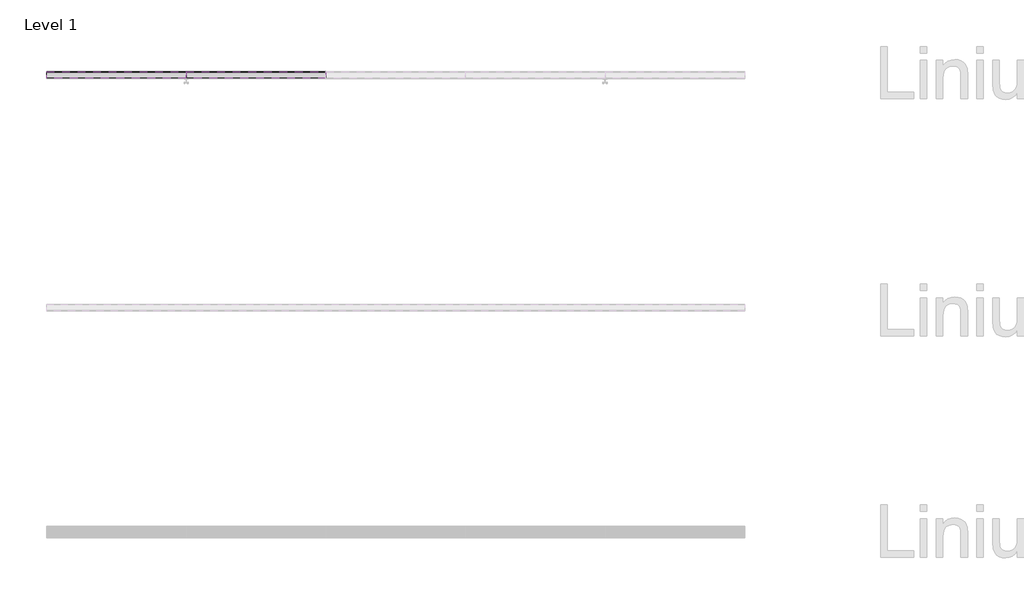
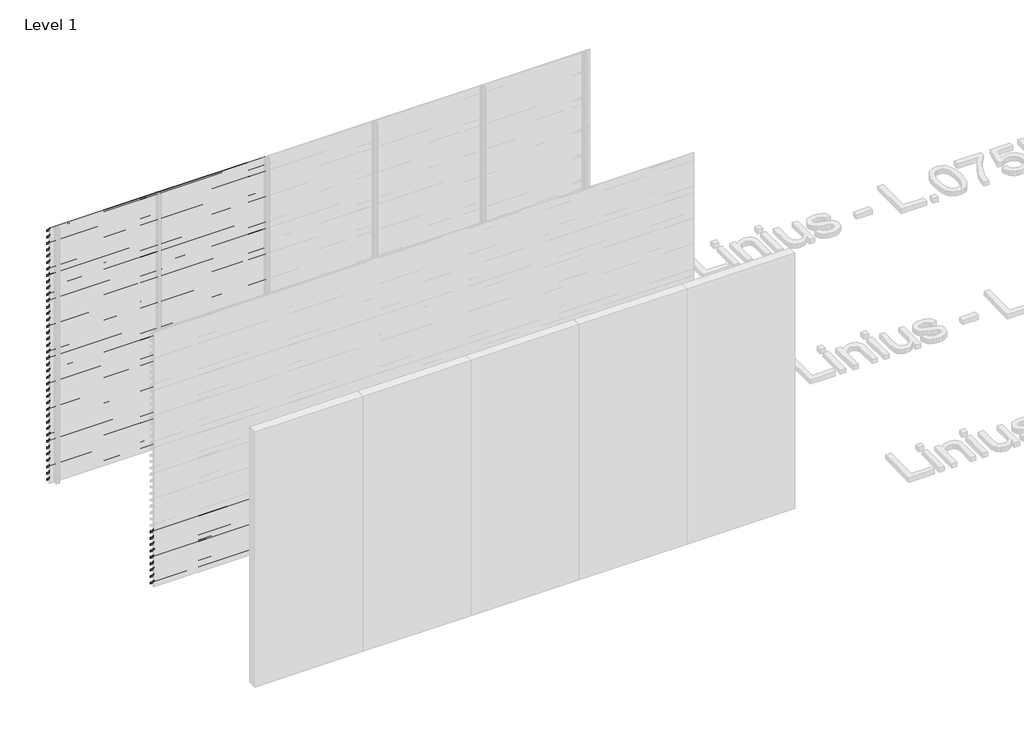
# One storey, part 16 of 55: 85 proxies.
"""IFC4 building model written with IfcOpenShell, lengths in millimetres."""

from ifc_helpers import new_model, si_unit, frame, origin, place, context, project, spatial, polyline, outline, extrude, element, save

model = new_model("IFC4")

# Units and contexts
model_context = context("Model", 3, world=origin())
ifc_project = project(units=[si_unit("LENGTHUNIT", "METRE", prefix="MILLI")], contexts=[model_context])

# Site, building, storey
site = spatial("IfcSite", under=ifc_project)
building = spatial("IfcBuilding", under=site)
storey = spatial("IfcBuildingStorey", under=building, Name="Level 1", Elevation=0.0)

# Proxies
placement = place(None, origin())
element("IfcBuildingElementProxy", 1, Name="Wall Sweeps", at=placement, inside=storey, context=model_context, shape_type="SweptSolid", body=[
    extrude(outline(polyline([(21581.0540136, 2943.5), (21581.0540136, 2923.5), (21579.8040136, 2924.2216933), (21579.8040136, 2942.7872415), (21526.0540136, 2980.3158044), (21526.0540136, 3000.0), (21527.3040136, 3000.0), (21527.3040136, 2981.0285629), (21581.0540136, 2943.5)])), frame((466.6208097, 0.0, 0.0), z_axis=(1.0, 0.0, 0.0), x_axis=(0.0, 1.0, 0.0)), (0.0, 0.0, 1.0), 1200.0000002),
])
element("IfcBuildingElementProxy", 2, Name="Wall Sweeps", at=placement, inside=storey, context=model_context, shape_type="SweptSolid", body=[
    extrude(outline(polyline([(21581.0540136, 2868.5), (21581.0540136, 2848.5), (21579.8040136, 2849.2216933), (21579.8040136, 2867.7872415), (21526.0540136, 2905.3158044), (21526.0540136, 2925.0), (21527.3040136, 2925.0), (21527.3040136, 2906.0285629), (21581.0540136, 2868.5)])), frame((466.6208097, 0.0, 0.0), z_axis=(1.0, 0.0, 0.0), x_axis=(0.0, 1.0, 0.0)), (0.0, 0.0, 1.0), 1200.0000002),
])
element("IfcBuildingElementProxy", 3, Name="Wall Sweeps", at=placement, inside=storey, context=model_context, shape_type="SweptSolid", body=[
    extrude(outline(polyline([(21581.0540136, 2793.5), (21581.0540136, 2773.5), (21579.8040136, 2774.2216933), (21579.8040136, 2792.7872415), (21526.0540136, 2830.3158044), (21526.0540136, 2850.0), (21527.3040136, 2850.0), (21527.3040136, 2831.0285629), (21581.0540136, 2793.5)])), frame((466.6208097, 0.0, 0.0), z_axis=(1.0, 0.0, 0.0), x_axis=(0.0, 1.0, 0.0)), (0.0, 0.0, 1.0), 1200.0000002),
])
element("IfcBuildingElementProxy", 4, Name="Wall Sweeps", at=placement, inside=storey, context=model_context, shape_type="SweptSolid", body=[
    extrude(outline(polyline([(21581.0540136, 2718.5), (21581.0540136, 2698.5), (21579.8040136, 2699.2216933), (21579.8040136, 2717.7872415), (21526.0540136, 2755.3158044), (21526.0540136, 2775.0), (21527.3040136, 2775.0), (21527.3040136, 2756.0285629), (21581.0540136, 2718.5)])), frame((466.6208097, 0.0, 0.0), z_axis=(1.0, 0.0, 0.0), x_axis=(0.0, 1.0, 0.0)), (0.0, 0.0, 1.0), 1200.0000002),
])
element("IfcBuildingElementProxy", 5, Name="Wall Sweeps", at=placement, inside=storey, context=model_context, shape_type="SweptSolid", body=[
    extrude(outline(polyline([(21581.0540136, 2643.5), (21581.0540136, 2623.5), (21579.8040136, 2624.2216933), (21579.8040136, 2642.7872415), (21526.0540136, 2680.3158044), (21526.0540136, 2700.0), (21527.3040136, 2700.0), (21527.3040136, 2681.0285629), (21581.0540136, 2643.5)])), frame((466.6208097, 0.0, 0.0), z_axis=(1.0, 0.0, 0.0), x_axis=(0.0, 1.0, 0.0)), (0.0, 0.0, 1.0), 1200.0000002),
])
element("IfcBuildingElementProxy", 6, Name="Wall Sweeps", at=placement, inside=storey, context=model_context, shape_type="SweptSolid", body=[
    extrude(outline(polyline([(21581.0540136, 2568.5), (21581.0540136, 2548.5), (21579.8040136, 2549.2216933), (21579.8040136, 2567.7872415), (21526.0540136, 2605.3158044), (21526.0540136, 2625.0), (21527.3040136, 2625.0), (21527.3040136, 2606.0285629), (21581.0540136, 2568.5)])), frame((466.6208097, 0.0, 0.0), z_axis=(1.0, 0.0, 0.0), x_axis=(0.0, 1.0, 0.0)), (0.0, 0.0, 1.0), 1200.0000002),
])
element("IfcBuildingElementProxy", 7, Name="Wall Sweeps", at=placement, inside=storey, context=model_context, shape_type="SweptSolid", body=[
    extrude(outline(polyline([(21581.0540136, 2493.5), (21581.0540136, 2473.5), (21579.8040136, 2474.2216933), (21579.8040136, 2492.7872415), (21526.0540136, 2530.3158044), (21526.0540136, 2550.0), (21527.3040136, 2550.0), (21527.3040136, 2531.0285629), (21581.0540136, 2493.5)])), frame((466.6208097, 0.0, 0.0), z_axis=(1.0, 0.0, 0.0), x_axis=(0.0, 1.0, 0.0)), (0.0, 0.0, 1.0), 1200.0000002),
])
element("IfcBuildingElementProxy", 8, Name="Wall Sweeps", at=placement, inside=storey, context=model_context, shape_type="SweptSolid", body=[
    extrude(outline(polyline([(21581.0540136, 2418.5), (21581.0540136, 2398.5), (21579.8040136, 2399.2216933), (21579.8040136, 2417.7872415), (21526.0540136, 2455.3158044), (21526.0540136, 2475.0), (21527.3040136, 2475.0), (21527.3040136, 2456.0285629), (21581.0540136, 2418.5)])), frame((466.6208097, 0.0, 0.0), z_axis=(1.0, 0.0, 0.0), x_axis=(0.0, 1.0, 0.0)), (0.0, 0.0, 1.0), 1200.0000002),
])
element("IfcBuildingElementProxy", 9, Name="Wall Sweeps", at=placement, inside=storey, context=model_context, shape_type="SweptSolid", body=[
    extrude(outline(polyline([(21581.0540136, 2343.5), (21581.0540136, 2323.5), (21579.8040136, 2324.2216933), (21579.8040136, 2342.7872415), (21526.0540136, 2380.3158044), (21526.0540136, 2400.0), (21527.3040136, 2400.0), (21527.3040136, 2381.0285629), (21581.0540136, 2343.5)])), frame((466.6208097, 0.0, 0.0), z_axis=(1.0, 0.0, 0.0), x_axis=(0.0, 1.0, 0.0)), (0.0, 0.0, 1.0), 1200.0000002),
])
element("IfcBuildingElementProxy", 10, Name="Wall Sweeps", at=placement, inside=storey, context=model_context, shape_type="SweptSolid", body=[
    extrude(outline(polyline([(21581.0540136, 2268.5), (21581.0540136, 2248.5), (21579.8040136, 2249.2216933), (21579.8040136, 2267.7872415), (21526.0540136, 2305.3158044), (21526.0540136, 2325.0), (21527.3040136, 2325.0), (21527.3040136, 2306.0285629), (21581.0540136, 2268.5)])), frame((466.6208097, 0.0, 0.0), z_axis=(1.0, 0.0, 0.0), x_axis=(0.0, 1.0, 0.0)), (0.0, 0.0, 1.0), 1200.0000002),
])
element("IfcBuildingElementProxy", 11, Name="Wall Sweeps", at=placement, inside=storey, context=model_context, shape_type="SweptSolid", body=[
    extrude(outline(polyline([(21581.0540136, 2193.5), (21581.0540136, 2173.5), (21579.8040136, 2174.2216933), (21579.8040136, 2192.7872415), (21526.0540136, 2230.3158044), (21526.0540136, 2250.0), (21527.3040136, 2250.0), (21527.3040136, 2231.0285629), (21581.0540136, 2193.5)])), frame((466.6208097, 0.0, 0.0), z_axis=(1.0, 0.0, 0.0), x_axis=(0.0, 1.0, 0.0)), (0.0, 0.0, 1.0), 1200.0000002),
])
element("IfcBuildingElementProxy", 12, Name="Wall Sweeps", at=placement, inside=storey, context=model_context, shape_type="SweptSolid", body=[
    extrude(outline(polyline([(21581.0540136, 2118.5), (21581.0540136, 2098.5), (21579.8040136, 2099.2216933), (21579.8040136, 2117.7872415), (21526.0540136, 2155.3158044), (21526.0540136, 2175.0), (21527.3040136, 2175.0), (21527.3040136, 2156.0285629), (21581.0540136, 2118.5)])), frame((466.6208097, 0.0, 0.0), z_axis=(1.0, 0.0, 0.0), x_axis=(0.0, 1.0, 0.0)), (0.0, 0.0, 1.0), 1200.0000002),
])
element("IfcBuildingElementProxy", 13, Name="Wall Sweeps", at=placement, inside=storey, context=model_context, shape_type="SweptSolid", body=[
    extrude(outline(polyline([(21581.0540136, 2043.5), (21581.0540136, 2023.5), (21579.8040136, 2024.2216933), (21579.8040136, 2042.7872415), (21526.0540136, 2080.3158044), (21526.0540136, 2100.0), (21527.3040136, 2100.0), (21527.3040136, 2081.0285629), (21581.0540136, 2043.5)])), frame((466.6208097, 0.0, 0.0), z_axis=(1.0, 0.0, 0.0), x_axis=(0.0, 1.0, 0.0)), (0.0, 0.0, 1.0), 1200.0000002),
])
element("IfcBuildingElementProxy", 14, Name="Wall Sweeps", at=placement, inside=storey, context=model_context, shape_type="SweptSolid", body=[
    extrude(outline(polyline([(21581.0540136, 1968.5), (21581.0540136, 1948.5), (21579.8040136, 1949.2216933), (21579.8040136, 1967.7872415), (21526.0540136, 2005.3158044), (21526.0540136, 2025.0), (21527.3040136, 2025.0), (21527.3040136, 2006.0285629), (21581.0540136, 1968.5)])), frame((466.6208097, 0.0, 0.0), z_axis=(1.0, 0.0, 0.0), x_axis=(0.0, 1.0, 0.0)), (0.0, 0.0, 1.0), 1200.0000002),
])
element("IfcBuildingElementProxy", 15, Name="Wall Sweeps", at=placement, inside=storey, context=model_context, shape_type="SweptSolid", body=[
    extrude(outline(polyline([(21581.0540136, 1893.5), (21581.0540136, 1873.5), (21579.8040136, 1874.2216933), (21579.8040136, 1892.7872415), (21526.0540136, 1930.3158044), (21526.0540136, 1950.0), (21527.3040136, 1950.0), (21527.3040136, 1931.0285629), (21581.0540136, 1893.5)])), frame((466.6208097, 0.0, 0.0), z_axis=(1.0, 0.0, 0.0), x_axis=(0.0, 1.0, 0.0)), (0.0, 0.0, 1.0), 1200.0000002),
])
element("IfcBuildingElementProxy", 16, Name="Wall Sweeps", at=placement, inside=storey, context=model_context, shape_type="SweptSolid", body=[
    extrude(outline(polyline([(21581.0540136, 1818.5), (21581.0540136, 1798.5), (21579.8040136, 1799.2216933), (21579.8040136, 1817.7872415), (21526.0540136, 1855.3158044), (21526.0540136, 1875.0), (21527.3040136, 1875.0), (21527.3040136, 1856.0285629), (21581.0540136, 1818.5)])), frame((466.6208097, 0.0, 0.0), z_axis=(1.0, 0.0, 0.0), x_axis=(0.0, 1.0, 0.0)), (0.0, 0.0, 1.0), 1200.0000002),
])
element("IfcBuildingElementProxy", 17, Name="Wall Sweeps", at=placement, inside=storey, context=model_context, shape_type="SweptSolid", body=[
    extrude(outline(polyline([(21581.0540136, 1743.5), (21581.0540136, 1723.5), (21579.8040136, 1724.2216933), (21579.8040136, 1742.7872415), (21526.0540136, 1780.3158044), (21526.0540136, 1800.0), (21527.3040136, 1800.0), (21527.3040136, 1781.0285629), (21581.0540136, 1743.5)])), frame((466.6208097, 0.0, 0.0), z_axis=(1.0, 0.0, 0.0), x_axis=(0.0, 1.0, 0.0)), (0.0, 0.0, 1.0), 1200.0000002),
])
element("IfcBuildingElementProxy", 18, Name="Wall Sweeps", at=placement, inside=storey, context=model_context, shape_type="SweptSolid", body=[
    extrude(outline(polyline([(21581.0540136, 1668.5), (21581.0540136, 1648.5), (21579.8040136, 1649.2216933), (21579.8040136, 1667.7872415), (21526.0540136, 1705.3158044), (21526.0540136, 1725.0), (21527.3040136, 1725.0), (21527.3040136, 1706.0285629), (21581.0540136, 1668.5)])), frame((466.6208097, 0.0, 0.0), z_axis=(1.0, 0.0, 0.0), x_axis=(0.0, 1.0, 0.0)), (0.0, 0.0, 1.0), 1200.0000002),
])
element("IfcBuildingElementProxy", 19, Name="Wall Sweeps", at=placement, inside=storey, context=model_context, shape_type="SweptSolid", body=[
    extrude(outline(polyline([(21581.0540136, 1593.5), (21581.0540136, 1573.5), (21579.8040136, 1574.2216933), (21579.8040136, 1592.7872415), (21526.0540136, 1630.3158044), (21526.0540136, 1650.0), (21527.3040136, 1650.0), (21527.3040136, 1631.0285629), (21581.0540136, 1593.5)])), frame((466.6208097, 0.0, 0.0), z_axis=(1.0, 0.0, 0.0), x_axis=(0.0, 1.0, 0.0)), (0.0, 0.0, 1.0), 1200.0000002),
])
element("IfcBuildingElementProxy", 20, Name="Wall Sweeps", at=placement, inside=storey, context=model_context, shape_type="SweptSolid", body=[
    extrude(outline(polyline([(21581.0540136, 1518.5), (21581.0540136, 1498.5), (21579.8040136, 1499.2216933), (21579.8040136, 1517.7872415), (21526.0540136, 1555.3158044), (21526.0540136, 1575.0), (21527.3040136, 1575.0), (21527.3040136, 1556.0285629), (21581.0540136, 1518.5)])), frame((466.6208097, 0.0, 0.0), z_axis=(1.0, 0.0, 0.0), x_axis=(0.0, 1.0, 0.0)), (0.0, 0.0, 1.0), 1200.0000002),
])
element("IfcBuildingElementProxy", 21, Name="Wall Sweeps", at=placement, inside=storey, context=model_context, shape_type="SweptSolid", body=[
    extrude(outline(polyline([(21581.0540136, 1443.5), (21581.0540136, 1423.5), (21579.8040136, 1424.2216933), (21579.8040136, 1442.7872415), (21526.0540136, 1480.3158044), (21526.0540136, 1500.0), (21527.3040136, 1500.0), (21527.3040136, 1481.0285629), (21581.0540136, 1443.5)])), frame((466.6208097, 0.0, 0.0), z_axis=(1.0, 0.0, 0.0), x_axis=(0.0, 1.0, 0.0)), (0.0, 0.0, 1.0), 1200.0000002),
])
element("IfcBuildingElementProxy", 22, Name="Wall Sweeps", at=placement, inside=storey, context=model_context, shape_type="SweptSolid", body=[
    extrude(outline(polyline([(21581.0540136, 1368.5), (21581.0540136, 1348.5), (21579.8040136, 1349.2216933), (21579.8040136, 1367.7872415), (21526.0540136, 1405.3158044), (21526.0540136, 1425.0), (21527.3040136, 1425.0), (21527.3040136, 1406.0285629), (21581.0540136, 1368.5)])), frame((466.6208097, 0.0, 0.0), z_axis=(1.0, 0.0, 0.0), x_axis=(0.0, 1.0, 0.0)), (0.0, 0.0, 1.0), 1200.0000002),
])
element("IfcBuildingElementProxy", 23, Name="Wall Sweeps", at=placement, inside=storey, context=model_context, shape_type="SweptSolid", body=[
    extrude(outline(polyline([(21581.0540136, 1293.5), (21581.0540136, 1273.5), (21579.8040136, 1274.2216933), (21579.8040136, 1292.7872415), (21526.0540136, 1330.3158044), (21526.0540136, 1350.0), (21527.3040136, 1350.0), (21527.3040136, 1331.0285629), (21581.0540136, 1293.5)])), frame((466.6208097, 0.0, 0.0), z_axis=(1.0, 0.0, 0.0), x_axis=(0.0, 1.0, 0.0)), (0.0, 0.0, 1.0), 1200.0000002),
])
element("IfcBuildingElementProxy", 24, Name="Wall Sweeps", at=placement, inside=storey, context=model_context, shape_type="SweptSolid", body=[
    extrude(outline(polyline([(21581.0540136, 1218.5), (21581.0540136, 1198.5), (21579.8040136, 1199.2216933), (21579.8040136, 1217.7872415), (21526.0540136, 1255.3158044), (21526.0540136, 1275.0), (21527.3040136, 1275.0), (21527.3040136, 1256.0285629), (21581.0540136, 1218.5)])), frame((466.6208097, 0.0, 0.0), z_axis=(1.0, 0.0, 0.0), x_axis=(0.0, 1.0, 0.0)), (0.0, 0.0, 1.0), 1200.0000002),
])
element("IfcBuildingElementProxy", 25, Name="Wall Sweeps", at=placement, inside=storey, context=model_context, shape_type="SweptSolid", body=[
    extrude(outline(polyline([(21581.0540136, 1143.5), (21581.0540136, 1123.5), (21579.8040136, 1124.2216933), (21579.8040136, 1142.7872415), (21526.0540136, 1180.3158044), (21526.0540136, 1200.0), (21527.3040136, 1200.0), (21527.3040136, 1181.0285629), (21581.0540136, 1143.5)])), frame((466.6208097, 0.0, 0.0), z_axis=(1.0, 0.0, 0.0), x_axis=(0.0, 1.0, 0.0)), (0.0, 0.0, 1.0), 1200.0000002),
])
element("IfcBuildingElementProxy", 26, Name="Wall Sweeps", at=placement, inside=storey, context=model_context, shape_type="SweptSolid", body=[
    extrude(outline(polyline([(21581.0540136, 1068.5), (21581.0540136, 1048.5), (21579.8040136, 1049.2216933), (21579.8040136, 1067.7872415), (21526.0540136, 1105.3158044), (21526.0540136, 1125.0), (21527.3040136, 1125.0), (21527.3040136, 1106.0285629), (21581.0540136, 1068.5)])), frame((466.6208097, 0.0, 0.0), z_axis=(1.0, 0.0, 0.0), x_axis=(0.0, 1.0, 0.0)), (0.0, 0.0, 1.0), 1200.0000002),
])
element("IfcBuildingElementProxy", 27, Name="Wall Sweeps", at=placement, inside=storey, context=model_context, shape_type="SweptSolid", body=[
    extrude(outline(polyline([(21581.0540136, 993.5), (21581.0540136, 973.5), (21579.8040136, 974.2216933), (21579.8040136, 992.7872415), (21526.0540136, 1030.3158044), (21526.0540136, 1050.0), (21527.3040136, 1050.0), (21527.3040136, 1031.0285629), (21581.0540136, 993.5)])), frame((466.6208097, 0.0, 0.0), z_axis=(1.0, 0.0, 0.0), x_axis=(0.0, 1.0, 0.0)), (0.0, 0.0, 1.0), 1200.0000002),
])
element("IfcBuildingElementProxy", 28, Name="Wall Sweeps", at=placement, inside=storey, context=model_context, shape_type="SweptSolid", body=[
    extrude(outline(polyline([(21581.0540136, 918.5), (21581.0540136, 898.5), (21579.8040136, 899.2216933), (21579.8040136, 917.7872415), (21526.0540136, 955.3158044), (21526.0540136, 975.0), (21527.3040136, 975.0), (21527.3040136, 956.0285629), (21581.0540136, 918.5)])), frame((466.6208097, 0.0, 0.0), z_axis=(1.0, 0.0, 0.0), x_axis=(0.0, 1.0, 0.0)), (0.0, 0.0, 1.0), 1200.0000002),
])
element("IfcBuildingElementProxy", 29, Name="Wall Sweeps", at=placement, inside=storey, context=model_context, shape_type="SweptSolid", body=[
    extrude(outline(polyline([(21581.0540136, 843.5), (21581.0540136, 823.5), (21579.8040136, 824.2216933), (21579.8040136, 842.7872415), (21526.0540136, 880.3158044), (21526.0540136, 900.0), (21527.3040136, 900.0), (21527.3040136, 881.0285629), (21581.0540136, 843.5)])), frame((466.6208097, 0.0, 0.0), z_axis=(1.0, 0.0, 0.0), x_axis=(0.0, 1.0, 0.0)), (0.0, 0.0, 1.0), 1200.0000002),
])
element("IfcBuildingElementProxy", 30, Name="Wall Sweeps", at=placement, inside=storey, context=model_context, shape_type="SweptSolid", body=[
    extrude(outline(polyline([(21581.0540136, 768.5), (21581.0540136, 748.5), (21579.8040136, 749.2216933), (21579.8040136, 767.7872415), (21526.0540136, 805.3158044), (21526.0540136, 825.0), (21527.3040136, 825.0), (21527.3040136, 806.0285629), (21581.0540136, 768.5)])), frame((466.6208097, 0.0, 0.0), z_axis=(1.0, 0.0, 0.0), x_axis=(0.0, 1.0, 0.0)), (0.0, 0.0, 1.0), 1200.0000002),
])
element("IfcBuildingElementProxy", 31, Name="Wall Sweeps", at=placement, inside=storey, context=model_context, shape_type="SweptSolid", body=[
    extrude(outline(polyline([(21581.0540136, 693.5), (21581.0540136, 673.5), (21579.8040136, 674.2216933), (21579.8040136, 692.7872415), (21526.0540136, 730.3158044), (21526.0540136, 750.0), (21527.3040136, 750.0), (21527.3040136, 731.0285629), (21581.0540136, 693.5)])), frame((466.6208097, 0.0, 0.0), z_axis=(1.0, 0.0, 0.0), x_axis=(0.0, 1.0, 0.0)), (0.0, 0.0, 1.0), 1200.0000002),
])
element("IfcBuildingElementProxy", 32, Name="Wall Sweeps", at=placement, inside=storey, context=model_context, shape_type="SweptSolid", body=[
    extrude(outline(polyline([(21581.0540136, 618.5), (21581.0540136, 598.5), (21579.8040136, 599.2216933), (21579.8040136, 617.7872415), (21526.0540136, 655.3158044), (21526.0540136, 675.0), (21527.3040136, 675.0), (21527.3040136, 656.0285629), (21581.0540136, 618.5)])), frame((466.6208097, 0.0, 0.0), z_axis=(1.0, 0.0, 0.0), x_axis=(0.0, 1.0, 0.0)), (0.0, 0.0, 1.0), 1200.0000002),
])
element("IfcBuildingElementProxy", 33, Name="Wall Sweeps", at=placement, inside=storey, context=model_context, shape_type="SweptSolid", body=[
    extrude(outline(polyline([(21581.0540136, 543.5), (21581.0540136, 523.5), (21579.8040136, 524.2216933), (21579.8040136, 542.7872415), (21526.0540136, 580.3158044), (21526.0540136, 600.0), (21527.3040136, 600.0), (21527.3040136, 581.0285629), (21581.0540136, 543.5)])), frame((466.6208097, 0.0, 0.0), z_axis=(1.0, 0.0, 0.0), x_axis=(0.0, 1.0, 0.0)), (0.0, 0.0, 1.0), 1200.0000002),
])
element("IfcBuildingElementProxy", 34, Name="Wall Sweeps", at=placement, inside=storey, context=model_context, shape_type="SweptSolid", body=[
    extrude(outline(polyline([(21581.0540136, 468.5), (21581.0540136, 448.5), (21579.8040136, 449.2216933), (21579.8040136, 467.7872415), (21526.0540136, 505.3158044), (21526.0540136, 525.0), (21527.3040136, 525.0), (21527.3040136, 506.0285629), (21581.0540136, 468.5)])), frame((466.6208097, 0.0, 0.0), z_axis=(1.0, 0.0, 0.0), x_axis=(0.0, 1.0, 0.0)), (0.0, 0.0, 1.0), 1200.0000002),
])
element("IfcBuildingElementProxy", 35, Name="Wall Sweeps", at=placement, inside=storey, context=model_context, shape_type="SweptSolid", body=[
    extrude(outline(polyline([(21581.0540136, 393.5), (21581.0540136, 373.5), (21579.8040136, 374.2216933), (21579.8040136, 392.7872415), (21526.0540136, 430.3158044), (21526.0540136, 450.0), (21527.3040136, 450.0), (21527.3040136, 431.0285629), (21581.0540136, 393.5)])), frame((466.6208097, 0.0, 0.0), z_axis=(1.0, 0.0, 0.0), x_axis=(0.0, 1.0, 0.0)), (0.0, 0.0, 1.0), 1200.0000002),
])
element("IfcBuildingElementProxy", 36, Name="Wall Sweeps", at=placement, inside=storey, context=model_context, shape_type="SweptSolid", body=[
    extrude(outline(polyline([(21581.0540136, 318.5), (21581.0540136, 298.5), (21579.8040136, 299.2216933), (21579.8040136, 317.7872415), (21526.0540136, 355.3158044), (21526.0540136, 375.0), (21527.3040136, 375.0), (21527.3040136, 356.0285629), (21581.0540136, 318.5)])), frame((466.6208097, 0.0, 0.0), z_axis=(1.0, 0.0, 0.0), x_axis=(0.0, 1.0, 0.0)), (0.0, 0.0, 1.0), 1200.0000002),
])
element("IfcBuildingElementProxy", 37, Name="Wall Sweeps", at=placement, inside=storey, context=model_context, shape_type="SweptSolid", body=[
    extrude(outline(polyline([(21581.0540136, 243.5), (21581.0540136, 223.5), (21579.8040136, 224.2216933), (21579.8040136, 242.7872415), (21526.0540136, 280.3158044), (21526.0540136, 300.0), (21527.3040136, 300.0), (21527.3040136, 281.0285629), (21581.0540136, 243.5)])), frame((466.6208097, 0.0, 0.0), z_axis=(1.0, 0.0, 0.0), x_axis=(0.0, 1.0, 0.0)), (0.0, 0.0, 1.0), 1200.0000002),
])
element("IfcBuildingElementProxy", 38, Name="Wall Sweeps", at=placement, inside=storey, context=model_context, shape_type="SweptSolid", body=[
    extrude(outline(polyline([(21581.0540136, 168.5), (21581.0540136, 148.5), (21579.8040136, 149.2216933), (21579.8040136, 167.7872415), (21526.0540136, 205.3158044), (21526.0540136, 225.0), (21527.3040136, 225.0), (21527.3040136, 206.0285629), (21581.0540136, 168.5)])), frame((466.6208097, 0.0, 0.0), z_axis=(1.0, 0.0, 0.0), x_axis=(0.0, 1.0, 0.0)), (0.0, 0.0, 1.0), 1200.0000002),
])
element("IfcBuildingElementProxy", 39, Name="Wall Sweeps", at=placement, inside=storey, context=model_context, shape_type="SweptSolid", body=[
    extrude(outline(polyline([(21581.0540136, 93.5), (21581.0540136, 73.5), (21579.8040136, 74.2216933), (21579.8040136, 92.7872415), (21526.0540136, 130.3158044), (21526.0540136, 150.0), (21527.3040136, 150.0), (21527.3040136, 131.0285629), (21581.0540136, 93.5)])), frame((466.6208097, 0.0, 0.0), z_axis=(1.0, 0.0, 0.0), x_axis=(0.0, 1.0, 0.0)), (0.0, 0.0, 1.0), 1200.0000002),
])
element("IfcBuildingElementProxy", 40, Name="Wall Sweeps", at=placement, inside=storey, context=model_context, shape_type="SweptSolid", body=[
    extrude(outline(polyline([(21581.0540136, 18.5), (21581.0540136, -1.5), (21579.8040136, -0.7783067), (21579.8040136, 17.7872415), (21526.0540136, 55.3158044), (21526.0540136, 75.0), (21527.3040136, 75.0), (21527.3040136, 56.0285629), (21581.0540136, 18.5)])), frame((466.6208097, 0.0, 0.0), z_axis=(1.0, 0.0, 0.0), x_axis=(0.0, 1.0, 0.0)), (0.0, 0.0, 1.0), 1200.0000002),
])
element("IfcBuildingElementProxy", 41, Name="Wall Sweeps", at=placement, inside=storey, context=model_context, shape_type="SweptSolid", body=[
    extrude(outline(polyline([(21581.0540136, 2943.5), (21581.0540136, 2923.5), (21579.8040136, 2924.2216933), (21579.8040136, 2942.7872415), (21526.0540136, 2980.3158044), (21526.0540136, 3000.0), (21527.3040136, 3000.0), (21527.3040136, 2981.0285629), (21581.0540136, 2943.5)])), frame((1666.6208099, 0.0, 0.0), z_axis=(1.0, 0.0, 0.0), x_axis=(0.0, 1.0, 0.0)), (0.0, 0.0, 1.0), 1199.9999999),
])
element("IfcBuildingElementProxy", 42, Name="Wall Sweeps", at=placement, inside=storey, context=model_context, shape_type="SweptSolid", body=[
    extrude(outline(polyline([(21581.0540136, 2868.5), (21581.0540136, 2848.5), (21579.8040136, 2849.2216933), (21579.8040136, 2867.7872415), (21526.0540136, 2905.3158044), (21526.0540136, 2925.0), (21527.3040136, 2925.0), (21527.3040136, 2906.0285629), (21581.0540136, 2868.5)])), frame((1666.6208099, 0.0, 0.0), z_axis=(1.0, 0.0, 0.0), x_axis=(0.0, 1.0, 0.0)), (0.0, 0.0, 1.0), 1199.9999999),
])
element("IfcBuildingElementProxy", 43, Name="Wall Sweeps", at=placement, inside=storey, context=model_context, shape_type="SweptSolid", body=[
    extrude(outline(polyline([(21581.0540136, 2793.5), (21581.0540136, 2773.5), (21579.8040136, 2774.2216933), (21579.8040136, 2792.7872415), (21526.0540136, 2830.3158044), (21526.0540136, 2850.0), (21527.3040136, 2850.0), (21527.3040136, 2831.0285629), (21581.0540136, 2793.5)])), frame((1666.6208099, 0.0, 0.0), z_axis=(1.0, 0.0, 0.0), x_axis=(0.0, 1.0, 0.0)), (0.0, 0.0, 1.0), 1199.9999999),
])
element("IfcBuildingElementProxy", 44, Name="Wall Sweeps", at=placement, inside=storey, context=model_context, shape_type="SweptSolid", body=[
    extrude(outline(polyline([(21581.0540136, 2718.5), (21581.0540136, 2698.5), (21579.8040136, 2699.2216933), (21579.8040136, 2717.7872415), (21526.0540136, 2755.3158044), (21526.0540136, 2775.0), (21527.3040136, 2775.0), (21527.3040136, 2756.0285629), (21581.0540136, 2718.5)])), frame((1666.6208099, 0.0, 0.0), z_axis=(1.0, 0.0, 0.0), x_axis=(0.0, 1.0, 0.0)), (0.0, 0.0, 1.0), 1199.9999999),
])
element("IfcBuildingElementProxy", 45, Name="Wall Sweeps", at=placement, inside=storey, context=model_context, shape_type="SweptSolid", body=[
    extrude(outline(polyline([(21581.0540136, 2643.5), (21581.0540136, 2623.5), (21579.8040136, 2624.2216933), (21579.8040136, 2642.7872415), (21526.0540136, 2680.3158044), (21526.0540136, 2700.0), (21527.3040136, 2700.0), (21527.3040136, 2681.0285629), (21581.0540136, 2643.5)])), frame((1666.6208099, 0.0, 0.0), z_axis=(1.0, 0.0, 0.0), x_axis=(0.0, 1.0, 0.0)), (0.0, 0.0, 1.0), 1199.9999999),
])
element("IfcBuildingElementProxy", 46, Name="Wall Sweeps", at=placement, inside=storey, context=model_context, shape_type="SweptSolid", body=[
    extrude(outline(polyline([(21581.0540136, 2568.5), (21581.0540136, 2548.5), (21579.8040136, 2549.2216933), (21579.8040136, 2567.7872415), (21526.0540136, 2605.3158044), (21526.0540136, 2625.0), (21527.3040136, 2625.0), (21527.3040136, 2606.0285629), (21581.0540136, 2568.5)])), frame((1666.6208099, 0.0, 0.0), z_axis=(1.0, 0.0, 0.0), x_axis=(0.0, 1.0, 0.0)), (0.0, 0.0, 1.0), 1199.9999999),
])
element("IfcBuildingElementProxy", 47, Name="Wall Sweeps", at=placement, inside=storey, context=model_context, shape_type="SweptSolid", body=[
    extrude(outline(polyline([(21581.0540136, 2493.5), (21581.0540136, 2473.5), (21579.8040136, 2474.2216933), (21579.8040136, 2492.7872415), (21526.0540136, 2530.3158044), (21526.0540136, 2550.0), (21527.3040136, 2550.0), (21527.3040136, 2531.0285629), (21581.0540136, 2493.5)])), frame((1666.6208099, 0.0, 0.0), z_axis=(1.0, 0.0, 0.0), x_axis=(0.0, 1.0, 0.0)), (0.0, 0.0, 1.0), 1199.9999999),
])
element("IfcBuildingElementProxy", 48, Name="Wall Sweeps", at=placement, inside=storey, context=model_context, shape_type="SweptSolid", body=[
    extrude(outline(polyline([(21581.0540136, 2418.5), (21581.0540136, 2398.5), (21579.8040136, 2399.2216933), (21579.8040136, 2417.7872415), (21526.0540136, 2455.3158044), (21526.0540136, 2475.0), (21527.3040136, 2475.0), (21527.3040136, 2456.0285629), (21581.0540136, 2418.5)])), frame((1666.6208099, 0.0, 0.0), z_axis=(1.0, 0.0, 0.0), x_axis=(0.0, 1.0, 0.0)), (0.0, 0.0, 1.0), 1199.9999999),
])
element("IfcBuildingElementProxy", 49, Name="Wall Sweeps", at=placement, inside=storey, context=model_context, shape_type="SweptSolid", body=[
    extrude(outline(polyline([(21581.0540136, 2343.5), (21581.0540136, 2323.5), (21579.8040136, 2324.2216933), (21579.8040136, 2342.7872415), (21526.0540136, 2380.3158044), (21526.0540136, 2400.0), (21527.3040136, 2400.0), (21527.3040136, 2381.0285629), (21581.0540136, 2343.5)])), frame((1666.6208099, 0.0, 0.0), z_axis=(1.0, 0.0, 0.0), x_axis=(0.0, 1.0, 0.0)), (0.0, 0.0, 1.0), 1199.9999999),
])
element("IfcBuildingElementProxy", 50, Name="Wall Sweeps", at=placement, inside=storey, context=model_context, shape_type="SweptSolid", body=[
    extrude(outline(polyline([(21581.0540136, 2268.5), (21581.0540136, 2248.5), (21579.8040136, 2249.2216933), (21579.8040136, 2267.7872415), (21526.0540136, 2305.3158044), (21526.0540136, 2325.0), (21527.3040136, 2325.0), (21527.3040136, 2306.0285629), (21581.0540136, 2268.5)])), frame((1666.6208099, 0.0, 0.0), z_axis=(1.0, 0.0, 0.0), x_axis=(0.0, 1.0, 0.0)), (0.0, 0.0, 1.0), 1199.9999999),
])
element("IfcBuildingElementProxy", 51, Name="Wall Sweeps", at=placement, inside=storey, context=model_context, shape_type="SweptSolid", body=[
    extrude(outline(polyline([(21581.0540136, 2193.5), (21581.0540136, 2173.5), (21579.8040136, 2174.2216933), (21579.8040136, 2192.7872415), (21526.0540136, 2230.3158044), (21526.0540136, 2250.0), (21527.3040136, 2250.0), (21527.3040136, 2231.0285629), (21581.0540136, 2193.5)])), frame((1666.6208099, 0.0, 0.0), z_axis=(1.0, 0.0, 0.0), x_axis=(0.0, 1.0, 0.0)), (0.0, 0.0, 1.0), 1199.9999999),
])
element("IfcBuildingElementProxy", 52, Name="Wall Sweeps", at=placement, inside=storey, context=model_context, shape_type="SweptSolid", body=[
    extrude(outline(polyline([(21581.0540136, 2118.5), (21581.0540136, 2098.5), (21579.8040136, 2099.2216933), (21579.8040136, 2117.7872415), (21526.0540136, 2155.3158044), (21526.0540136, 2175.0), (21527.3040136, 2175.0), (21527.3040136, 2156.0285629), (21581.0540136, 2118.5)])), frame((1666.6208099, 0.0, 0.0), z_axis=(1.0, 0.0, 0.0), x_axis=(0.0, 1.0, 0.0)), (0.0, 0.0, 1.0), 1199.9999999),
])
element("IfcBuildingElementProxy", 53, Name="Wall Sweeps", at=placement, inside=storey, context=model_context, shape_type="SweptSolid", body=[
    extrude(outline(polyline([(21581.0540136, 2043.5), (21581.0540136, 2023.5), (21579.8040136, 2024.2216933), (21579.8040136, 2042.7872415), (21526.0540136, 2080.3158044), (21526.0540136, 2100.0), (21527.3040136, 2100.0), (21527.3040136, 2081.0285629), (21581.0540136, 2043.5)])), frame((1666.6208099, 0.0, 0.0), z_axis=(1.0, 0.0, 0.0), x_axis=(0.0, 1.0, 0.0)), (0.0, 0.0, 1.0), 1199.9999999),
])
element("IfcBuildingElementProxy", 54, Name="Wall Sweeps", at=placement, inside=storey, context=model_context, shape_type="SweptSolid", body=[
    extrude(outline(polyline([(21581.0540136, 1968.5), (21581.0540136, 1948.5), (21579.8040136, 1949.2216933), (21579.8040136, 1967.7872415), (21526.0540136, 2005.3158044), (21526.0540136, 2025.0), (21527.3040136, 2025.0), (21527.3040136, 2006.0285629), (21581.0540136, 1968.5)])), frame((1666.6208099, 0.0, 0.0), z_axis=(1.0, 0.0, 0.0), x_axis=(0.0, 1.0, 0.0)), (0.0, 0.0, 1.0), 1199.9999999),
])
element("IfcBuildingElementProxy", 55, Name="Wall Sweeps", at=placement, inside=storey, context=model_context, shape_type="SweptSolid", body=[
    extrude(outline(polyline([(21581.0540136, 1893.5), (21581.0540136, 1873.5), (21579.8040136, 1874.2216933), (21579.8040136, 1892.7872415), (21526.0540136, 1930.3158044), (21526.0540136, 1950.0), (21527.3040136, 1950.0), (21527.3040136, 1931.0285629), (21581.0540136, 1893.5)])), frame((1666.6208099, 0.0, 0.0), z_axis=(1.0, 0.0, 0.0), x_axis=(0.0, 1.0, 0.0)), (0.0, 0.0, 1.0), 1199.9999999),
])
element("IfcBuildingElementProxy", 56, Name="Wall Sweeps", at=placement, inside=storey, context=model_context, shape_type="SweptSolid", body=[
    extrude(outline(polyline([(21581.0540136, 1818.5), (21581.0540136, 1798.5), (21579.8040136, 1799.2216933), (21579.8040136, 1817.7872415), (21526.0540136, 1855.3158044), (21526.0540136, 1875.0), (21527.3040136, 1875.0), (21527.3040136, 1856.0285629), (21581.0540136, 1818.5)])), frame((1666.6208099, 0.0, 0.0), z_axis=(1.0, 0.0, 0.0), x_axis=(0.0, 1.0, 0.0)), (0.0, 0.0, 1.0), 1199.9999999),
])
element("IfcBuildingElementProxy", 57, Name="Wall Sweeps", at=placement, inside=storey, context=model_context, shape_type="SweptSolid", body=[
    extrude(outline(polyline([(21581.0540136, 1743.5), (21581.0540136, 1723.5), (21579.8040136, 1724.2216933), (21579.8040136, 1742.7872415), (21526.0540136, 1780.3158044), (21526.0540136, 1800.0), (21527.3040136, 1800.0), (21527.3040136, 1781.0285629), (21581.0540136, 1743.5)])), frame((1666.6208099, 0.0, 0.0), z_axis=(1.0, 0.0, 0.0), x_axis=(0.0, 1.0, 0.0)), (0.0, 0.0, 1.0), 1199.9999999),
])
element("IfcBuildingElementProxy", 58, Name="Wall Sweeps", at=placement, inside=storey, context=model_context, shape_type="SweptSolid", body=[
    extrude(outline(polyline([(21581.0540136, 1668.5), (21581.0540136, 1648.5), (21579.8040136, 1649.2216933), (21579.8040136, 1667.7872415), (21526.0540136, 1705.3158044), (21526.0540136, 1725.0), (21527.3040136, 1725.0), (21527.3040136, 1706.0285629), (21581.0540136, 1668.5)])), frame((1666.6208099, 0.0, 0.0), z_axis=(1.0, 0.0, 0.0), x_axis=(0.0, 1.0, 0.0)), (0.0, 0.0, 1.0), 1199.9999999),
])
element("IfcBuildingElementProxy", 59, Name="Wall Sweeps", at=placement, inside=storey, context=model_context, shape_type="SweptSolid", body=[
    extrude(outline(polyline([(21581.0540136, 1593.5), (21581.0540136, 1573.5), (21579.8040136, 1574.2216933), (21579.8040136, 1592.7872415), (21526.0540136, 1630.3158044), (21526.0540136, 1650.0), (21527.3040136, 1650.0), (21527.3040136, 1631.0285629), (21581.0540136, 1593.5)])), frame((1666.6208099, 0.0, 0.0), z_axis=(1.0, 0.0, 0.0), x_axis=(0.0, 1.0, 0.0)), (0.0, 0.0, 1.0), 1199.9999999),
])
element("IfcBuildingElementProxy", 60, Name="Wall Sweeps", at=placement, inside=storey, context=model_context, shape_type="SweptSolid", body=[
    extrude(outline(polyline([(21581.0540136, 1518.5), (21581.0540136, 1498.5), (21579.8040136, 1499.2216933), (21579.8040136, 1517.7872415), (21526.0540136, 1555.3158044), (21526.0540136, 1575.0), (21527.3040136, 1575.0), (21527.3040136, 1556.0285629), (21581.0540136, 1518.5)])), frame((1666.6208099, 0.0, 0.0), z_axis=(1.0, 0.0, 0.0), x_axis=(0.0, 1.0, 0.0)), (0.0, 0.0, 1.0), 1199.9999999),
])
element("IfcBuildingElementProxy", 61, Name="Wall Sweeps", at=placement, inside=storey, context=model_context, shape_type="SweptSolid", body=[
    extrude(outline(polyline([(21581.0540136, 1443.5), (21581.0540136, 1423.5), (21579.8040136, 1424.2216933), (21579.8040136, 1442.7872415), (21526.0540136, 1480.3158044), (21526.0540136, 1500.0), (21527.3040136, 1500.0), (21527.3040136, 1481.0285629), (21581.0540136, 1443.5)])), frame((1666.6208099, 0.0, 0.0), z_axis=(1.0, 0.0, 0.0), x_axis=(0.0, 1.0, 0.0)), (0.0, 0.0, 1.0), 1199.9999999),
])
element("IfcBuildingElementProxy", 62, Name="Wall Sweeps", at=placement, inside=storey, context=model_context, shape_type="SweptSolid", body=[
    extrude(outline(polyline([(21581.0540136, 1368.5), (21581.0540136, 1348.5), (21579.8040136, 1349.2216933), (21579.8040136, 1367.7872415), (21526.0540136, 1405.3158044), (21526.0540136, 1425.0), (21527.3040136, 1425.0), (21527.3040136, 1406.0285629), (21581.0540136, 1368.5)])), frame((1666.6208099, 0.0, 0.0), z_axis=(1.0, 0.0, 0.0), x_axis=(0.0, 1.0, 0.0)), (0.0, 0.0, 1.0), 1199.9999999),
])
element("IfcBuildingElementProxy", 63, Name="Wall Sweeps", at=placement, inside=storey, context=model_context, shape_type="SweptSolid", body=[
    extrude(outline(polyline([(21581.0540136, 1293.5), (21581.0540136, 1273.5), (21579.8040136, 1274.2216933), (21579.8040136, 1292.7872415), (21526.0540136, 1330.3158044), (21526.0540136, 1350.0), (21527.3040136, 1350.0), (21527.3040136, 1331.0285629), (21581.0540136, 1293.5)])), frame((1666.6208099, 0.0, 0.0), z_axis=(1.0, 0.0, 0.0), x_axis=(0.0, 1.0, 0.0)), (0.0, 0.0, 1.0), 1199.9999999),
])
element("IfcBuildingElementProxy", 64, Name="Wall Sweeps", at=placement, inside=storey, context=model_context, shape_type="SweptSolid", body=[
    extrude(outline(polyline([(21581.0540136, 1218.5), (21581.0540136, 1198.5), (21579.8040136, 1199.2216933), (21579.8040136, 1217.7872415), (21526.0540136, 1255.3158044), (21526.0540136, 1275.0), (21527.3040136, 1275.0), (21527.3040136, 1256.0285629), (21581.0540136, 1218.5)])), frame((1666.6208099, 0.0, 0.0), z_axis=(1.0, 0.0, 0.0), x_axis=(0.0, 1.0, 0.0)), (0.0, 0.0, 1.0), 1199.9999999),
])
element("IfcBuildingElementProxy", 65, Name="Wall Sweeps", at=placement, inside=storey, context=model_context, shape_type="SweptSolid", body=[
    extrude(outline(polyline([(21581.0540136, 1143.5), (21581.0540136, 1123.5), (21579.8040136, 1124.2216933), (21579.8040136, 1142.7872415), (21526.0540136, 1180.3158044), (21526.0540136, 1200.0), (21527.3040136, 1200.0), (21527.3040136, 1181.0285629), (21581.0540136, 1143.5)])), frame((1666.6208099, 0.0, 0.0), z_axis=(1.0, 0.0, 0.0), x_axis=(0.0, 1.0, 0.0)), (0.0, 0.0, 1.0), 1199.9999999),
])
element("IfcBuildingElementProxy", 66, Name="Wall Sweeps", at=placement, inside=storey, context=model_context, shape_type="SweptSolid", body=[
    extrude(outline(polyline([(21581.0540136, 1068.5), (21581.0540136, 1048.5), (21579.8040136, 1049.2216933), (21579.8040136, 1067.7872415), (21526.0540136, 1105.3158044), (21526.0540136, 1125.0), (21527.3040136, 1125.0), (21527.3040136, 1106.0285629), (21581.0540136, 1068.5)])), frame((1666.6208099, 0.0, 0.0), z_axis=(1.0, 0.0, 0.0), x_axis=(0.0, 1.0, 0.0)), (0.0, 0.0, 1.0), 1199.9999999),
])
element("IfcBuildingElementProxy", 67, Name="Wall Sweeps", at=placement, inside=storey, context=model_context, shape_type="SweptSolid", body=[
    extrude(outline(polyline([(21581.0540136, 993.5), (21581.0540136, 973.5), (21579.8040136, 974.2216933), (21579.8040136, 992.7872415), (21526.0540136, 1030.3158044), (21526.0540136, 1050.0), (21527.3040136, 1050.0), (21527.3040136, 1031.0285629), (21581.0540136, 993.5)])), frame((1666.6208099, 0.0, 0.0), z_axis=(1.0, 0.0, 0.0), x_axis=(0.0, 1.0, 0.0)), (0.0, 0.0, 1.0), 1199.9999999),
])
element("IfcBuildingElementProxy", 68, Name="Wall Sweeps", at=placement, inside=storey, context=model_context, shape_type="SweptSolid", body=[
    extrude(outline(polyline([(21581.0540136, 918.5), (21581.0540136, 898.5), (21579.8040136, 899.2216933), (21579.8040136, 917.7872415), (21526.0540136, 955.3158044), (21526.0540136, 975.0), (21527.3040136, 975.0), (21527.3040136, 956.0285629), (21581.0540136, 918.5)])), frame((1666.6208099, 0.0, 0.0), z_axis=(1.0, 0.0, 0.0), x_axis=(0.0, 1.0, 0.0)), (0.0, 0.0, 1.0), 1199.9999999),
])
element("IfcBuildingElementProxy", 69, Name="Wall Sweeps", at=placement, inside=storey, context=model_context, shape_type="SweptSolid", body=[
    extrude(outline(polyline([(21581.0540136, 843.5), (21581.0540136, 823.5), (21579.8040136, 824.2216933), (21579.8040136, 842.7872415), (21526.0540136, 880.3158044), (21526.0540136, 900.0), (21527.3040136, 900.0), (21527.3040136, 881.0285629), (21581.0540136, 843.5)])), frame((1666.6208099, 0.0, 0.0), z_axis=(1.0, 0.0, 0.0), x_axis=(0.0, 1.0, 0.0)), (0.0, 0.0, 1.0), 1199.9999999),
])
element("IfcBuildingElementProxy", 70, Name="Wall Sweeps", at=placement, inside=storey, context=model_context, shape_type="SweptSolid", body=[
    extrude(outline(polyline([(21581.0540136, 768.5), (21581.0540136, 748.5), (21579.8040136, 749.2216933), (21579.8040136, 767.7872415), (21526.0540136, 805.3158044), (21526.0540136, 825.0), (21527.3040136, 825.0), (21527.3040136, 806.0285629), (21581.0540136, 768.5)])), frame((1666.6208099, 0.0, 0.0), z_axis=(1.0, 0.0, 0.0), x_axis=(0.0, 1.0, 0.0)), (0.0, 0.0, 1.0), 1199.9999999),
])
element("IfcBuildingElementProxy", 71, Name="Wall Sweeps", at=placement, inside=storey, context=model_context, shape_type="SweptSolid", body=[
    extrude(outline(polyline([(21581.0540136, 693.5), (21581.0540136, 673.5), (21579.8040136, 674.2216933), (21579.8040136, 692.7872415), (21526.0540136, 730.3158044), (21526.0540136, 750.0), (21527.3040136, 750.0), (21527.3040136, 731.0285629), (21581.0540136, 693.5)])), frame((1666.6208099, 0.0, 0.0), z_axis=(1.0, 0.0, 0.0), x_axis=(0.0, 1.0, 0.0)), (0.0, 0.0, 1.0), 1199.9999999),
])
element("IfcBuildingElementProxy", 72, Name="Wall Sweeps", at=placement, inside=storey, context=model_context, shape_type="SweptSolid", body=[
    extrude(outline(polyline([(21581.0540136, 618.5), (21581.0540136, 598.5), (21579.8040136, 599.2216933), (21579.8040136, 617.7872415), (21526.0540136, 655.3158044), (21526.0540136, 675.0), (21527.3040136, 675.0), (21527.3040136, 656.0285629), (21581.0540136, 618.5)])), frame((1666.6208099, 0.0, 0.0), z_axis=(1.0, 0.0, 0.0), x_axis=(0.0, 1.0, 0.0)), (0.0, 0.0, 1.0), 1199.9999999),
])
element("IfcBuildingElementProxy", 73, Name="Wall Sweeps", at=placement, inside=storey, context=model_context, shape_type="SweptSolid", body=[
    extrude(outline(polyline([(21581.0540136, 543.5), (21581.0540136, 523.5), (21579.8040136, 524.2216933), (21579.8040136, 542.7872415), (21526.0540136, 580.3158044), (21526.0540136, 600.0), (21527.3040136, 600.0), (21527.3040136, 581.0285629), (21581.0540136, 543.5)])), frame((1666.6208099, 0.0, 0.0), z_axis=(1.0, 0.0, 0.0), x_axis=(0.0, 1.0, 0.0)), (0.0, 0.0, 1.0), 1199.9999999),
])
element("IfcBuildingElementProxy", 74, Name="Wall Sweeps", at=placement, inside=storey, context=model_context, shape_type="SweptSolid", body=[
    extrude(outline(polyline([(21581.0540136, 468.5), (21581.0540136, 448.5), (21579.8040136, 449.2216933), (21579.8040136, 467.7872415), (21526.0540136, 505.3158044), (21526.0540136, 525.0), (21527.3040136, 525.0), (21527.3040136, 506.0285629), (21581.0540136, 468.5)])), frame((1666.6208099, 0.0, 0.0), z_axis=(1.0, 0.0, 0.0), x_axis=(0.0, 1.0, 0.0)), (0.0, 0.0, 1.0), 1199.9999999),
])
element("IfcBuildingElementProxy", 75, Name="Wall Sweeps", at=placement, inside=storey, context=model_context, shape_type="SweptSolid", body=[
    extrude(outline(polyline([(21581.0540136, 393.5), (21581.0540136, 373.5), (21579.8040136, 374.2216933), (21579.8040136, 392.7872415), (21526.0540136, 430.3158044), (21526.0540136, 450.0), (21527.3040136, 450.0), (21527.3040136, 431.0285629), (21581.0540136, 393.5)])), frame((1666.6208099, 0.0, 0.0), z_axis=(1.0, 0.0, 0.0), x_axis=(0.0, 1.0, 0.0)), (0.0, 0.0, 1.0), 1199.9999999),
])
element("IfcBuildingElementProxy", 76, Name="Wall Sweeps", at=placement, inside=storey, context=model_context, shape_type="SweptSolid", body=[
    extrude(outline(polyline([(21581.0540136, 318.5), (21581.0540136, 298.5), (21579.8040136, 299.2216933), (21579.8040136, 317.7872415), (21526.0540136, 355.3158044), (21526.0540136, 375.0), (21527.3040136, 375.0), (21527.3040136, 356.0285629), (21581.0540136, 318.5)])), frame((1666.6208099, 0.0, 0.0), z_axis=(1.0, 0.0, 0.0), x_axis=(0.0, 1.0, 0.0)), (0.0, 0.0, 1.0), 1199.9999999),
])
element("IfcBuildingElementProxy", 77, Name="Wall Sweeps", at=placement, inside=storey, context=model_context, shape_type="SweptSolid", body=[
    extrude(outline(polyline([(19581.0540136, 618.5), (19581.0540136, 598.5), (19579.8040136, 599.2216933), (19579.8040136, 617.7872415), (19526.0540136, 655.3158044), (19526.0540136, 675.0), (19527.3040136, 675.0), (19527.3040136, 656.0285629), (19581.0540136, 618.5)])), frame((466.6208097, 0.0, 0.0), z_axis=(1.0, 0.0, 0.0), x_axis=(0.0, 1.0, 0.0)), (0.0, 0.0, 1.0), 6000.0),
])
element("IfcBuildingElementProxy", 78, Name="Wall Sweeps", at=placement, inside=storey, context=model_context, shape_type="SweptSolid", body=[
    extrude(outline(polyline([(19581.0540136, 543.5), (19581.0540136, 523.5), (19579.8040136, 524.2216933), (19579.8040136, 542.7872415), (19526.0540136, 580.3158044), (19526.0540136, 600.0), (19527.3040136, 600.0), (19527.3040136, 581.0285629), (19581.0540136, 543.5)])), frame((466.6208097, 0.0, 0.0), z_axis=(1.0, 0.0, 0.0), x_axis=(0.0, 1.0, 0.0)), (0.0, 0.0, 1.0), 6000.0),
])
element("IfcBuildingElementProxy", 79, Name="Wall Sweeps", at=placement, inside=storey, context=model_context, shape_type="SweptSolid", body=[
    extrude(outline(polyline([(19581.0540136, 468.5), (19581.0540136, 448.5), (19579.8040136, 449.2216933), (19579.8040136, 467.7872415), (19526.0540136, 505.3158044), (19526.0540136, 525.0), (19527.3040136, 525.0), (19527.3040136, 506.0285629), (19581.0540136, 468.5)])), frame((466.6208097, 0.0, 0.0), z_axis=(1.0, 0.0, 0.0), x_axis=(0.0, 1.0, 0.0)), (0.0, 0.0, 1.0), 6000.0),
])
element("IfcBuildingElementProxy", 80, Name="Wall Sweeps", at=placement, inside=storey, context=model_context, shape_type="SweptSolid", body=[
    extrude(outline(polyline([(19581.0540136, 393.5), (19581.0540136, 373.5), (19579.8040136, 374.2216933), (19579.8040136, 392.7872415), (19526.0540136, 430.3158044), (19526.0540136, 450.0), (19527.3040136, 450.0), (19527.3040136, 431.0285629), (19581.0540136, 393.5)])), frame((466.6208097, 0.0, 0.0), z_axis=(1.0, 0.0, 0.0), x_axis=(0.0, 1.0, 0.0)), (0.0, 0.0, 1.0), 6000.0),
])
element("IfcBuildingElementProxy", 81, Name="Wall Sweeps", at=placement, inside=storey, context=model_context, shape_type="SweptSolid", body=[
    extrude(outline(polyline([(19581.0540136, 318.5), (19581.0540136, 298.5), (19579.8040136, 299.2216933), (19579.8040136, 317.7872415), (19526.0540136, 355.3158044), (19526.0540136, 375.0), (19527.3040136, 375.0), (19527.3040136, 356.0285629), (19581.0540136, 318.5)])), frame((466.6208097, 0.0, 0.0), z_axis=(1.0, 0.0, 0.0), x_axis=(0.0, 1.0, 0.0)), (0.0, 0.0, 1.0), 6000.0),
])
element("IfcBuildingElementProxy", 82, Name="Wall Sweeps", at=placement, inside=storey, context=model_context, shape_type="SweptSolid", body=[
    extrude(outline(polyline([(19581.0540136, 243.5), (19581.0540136, 223.5), (19579.8040136, 224.2216933), (19579.8040136, 242.7872415), (19526.0540136, 280.3158044), (19526.0540136, 300.0), (19527.3040136, 300.0), (19527.3040136, 281.0285629), (19581.0540136, 243.5)])), frame((466.6208097, 0.0, 0.0), z_axis=(1.0, 0.0, 0.0), x_axis=(0.0, 1.0, 0.0)), (0.0, 0.0, 1.0), 6000.0),
])
element("IfcBuildingElementProxy", 83, Name="Wall Sweeps", at=placement, inside=storey, context=model_context, shape_type="SweptSolid", body=[
    extrude(outline(polyline([(19581.0540136, 168.5), (19581.0540136, 148.5), (19579.8040136, 149.2216933), (19579.8040136, 167.7872415), (19526.0540136, 205.3158044), (19526.0540136, 225.0), (19527.3040136, 225.0), (19527.3040136, 206.0285629), (19581.0540136, 168.5)])), frame((466.6208097, 0.0, 0.0), z_axis=(1.0, 0.0, 0.0), x_axis=(0.0, 1.0, 0.0)), (0.0, 0.0, 1.0), 6000.0),
])
element("IfcBuildingElementProxy", 84, Name="Wall Sweeps", at=placement, inside=storey, context=model_context, shape_type="SweptSolid", body=[
    extrude(outline(polyline([(19581.0540136, 93.5), (19581.0540136, 73.5), (19579.8040136, 74.2216933), (19579.8040136, 92.7872415), (19526.0540136, 130.3158044), (19526.0540136, 150.0), (19527.3040136, 150.0), (19527.3040136, 131.0285629), (19581.0540136, 93.5)])), frame((466.6208097, 0.0, 0.0), z_axis=(1.0, 0.0, 0.0), x_axis=(0.0, 1.0, 0.0)), (0.0, 0.0, 1.0), 6000.0),
])
element("IfcBuildingElementProxy", 85, Name="Wall Sweeps", at=placement, inside=storey, context=model_context, shape_type="SweptSolid", body=[
    extrude(outline(polyline([(19581.0540136, 18.5), (19581.0540136, -1.5), (19579.8040136, -0.7783067), (19579.8040136, 17.7872415), (19526.0540136, 55.3158044), (19526.0540136, 75.0), (19527.3040136, 75.0), (19527.3040136, 56.0285629), (19581.0540136, 18.5)])), frame((466.6208097, 0.0, 0.0), z_axis=(1.0, 0.0, 0.0), x_axis=(0.0, 1.0, 0.0)), (0.0, 0.0, 1.0), 6000.0),
])

save(model, "model.ifc")
